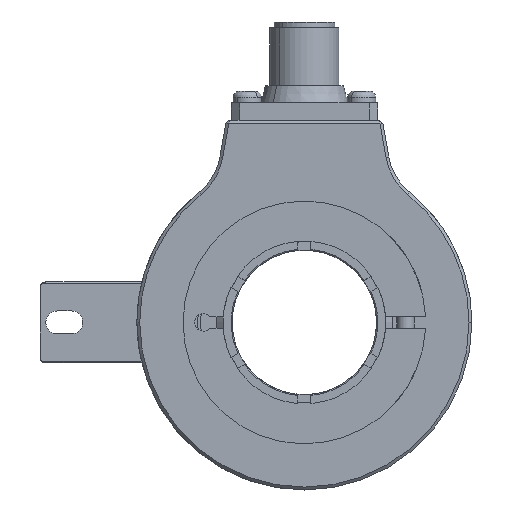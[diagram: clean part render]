
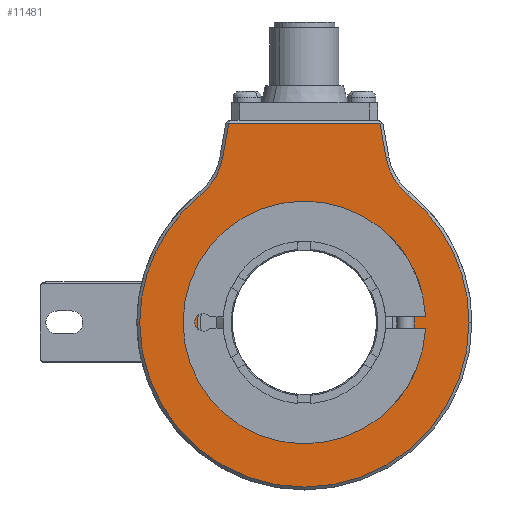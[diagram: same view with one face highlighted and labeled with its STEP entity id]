
A CAD part, left-side view. The second image highlights one B-rep face of the part: STEP entity #11481.
In plain terms, the highlighted planar face has unit normal (-1, 0, 0).
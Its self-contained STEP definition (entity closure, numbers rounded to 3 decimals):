
#164 = DIRECTION ( 'NONE',  ( 0., 0.174, -0.985 ) ) ;
#317 = CIRCLE ( 'NONE', #12585, 18.5 ) ;
#346 = CARTESIAN_POINT ( 'NONE',  ( -27., 17.883, 22.191 ) ) ;
#556 = DIRECTION ( 'NONE',  ( -1., 0., 0. ) ) ;
#740 = PLANE ( 'NONE',  #7985 ) ;
#1146 = CARTESIAN_POINT ( 'NONE',  ( -27., -13.08, 34.5 ) ) ;
#1326 = CARTESIAN_POINT ( 'NONE',  ( -27., 18.5, 0. ) ) ;
#1417 = DIRECTION ( 'NONE',  ( 1., 0., 0. ) ) ;
#1429 = CARTESIAN_POINT ( 'NONE',  ( -27., 0., 0. ) ) ;
#1501 = EDGE_CURVE ( 'NONE', #5836, #8774, #7565, .T. ) ;
#1685 = EDGE_CURVE ( 'NONE', #10364, #9672, #17182, .T. ) ;
#2010 = CARTESIAN_POINT ( 'NONE',  ( -27., 13.08, 34.5 ) ) ;
#2224 = ORIENTED_EDGE ( 'NONE', *, *, #1685, .T. ) ;
#2228 = VERTEX_POINT ( 'NONE', #15866 ) ;
#2250 = EDGE_LOOP ( 'NONE', ( #2224, #14128 ) ) ;
#2489 = VERTEX_POINT ( 'NONE', #18053 ) ;
#2624 = DIRECTION ( 'NONE',  ( 0., 1., 0. ) ) ;
#2635 = EDGE_CURVE ( 'NONE', #16672, #5604, #2981, .T. ) ;
#2689 = EDGE_CURVE ( 'NONE', #10497, #2228, #16241, .T. ) ;
#2802 = CARTESIAN_POINT ( 'NONE',  ( -27., -24.471, 30.367 ) ) ;
#2981 = CIRCLE ( 'NONE', #11168, 28.5 ) ;
#3103 = DIRECTION ( 'NONE',  ( -1., 0., 0. ) ) ;
#3360 = DIRECTION ( 'NONE',  ( 1., 0., 0. ) ) ;
#4176 = ORIENTED_EDGE ( 'NONE', *, *, #14098, .T. ) ;
#5082 = AXIS2_PLACEMENT_3D ( 'NONE', #12043, #9170, #11943 ) ;
#5149 = VECTOR ( 'NONE', #8439, 1000. ) ;
#5310 = ORIENTED_EDGE ( 'NONE', *, *, #1501, .T. ) ;
#5466 = DIRECTION ( 'NONE',  ( 0., -1., 0. ) ) ;
#5537 = CARTESIAN_POINT ( 'NONE',  ( -27., -18.5, 0. ) ) ;
#5576 = DIRECTION ( 'NONE',  ( 1., 0., 0. ) ) ;
#5604 = VERTEX_POINT ( 'NONE', #15654 ) ;
#5656 = AXIS2_PLACEMENT_3D ( 'NONE', #6613, #17109, #14127 ) ;
#5836 = VERTEX_POINT ( 'NONE', #2010 ) ;
#6007 = CIRCLE ( 'NONE', #8838, 28.5 ) ;
#6124 = ORIENTED_EDGE ( 'NONE', *, *, #2635, .T. ) ;
#6613 = CARTESIAN_POINT ( 'NONE',  ( -27., 0., 0. ) ) ;
#6821 = ORIENTED_EDGE ( 'NONE', *, *, #11242, .T. ) ;
#6882 = EDGE_CURVE ( 'NONE', #9672, #10364, #317, .T. ) ;
#6948 = FACE_OUTER_BOUND ( 'NONE', #8124, .T. ) ;
#6982 = EDGE_CURVE ( 'NONE', #2489, #10497, #11653, .T. ) ;
#7407 = AXIS2_PLACEMENT_3D ( 'NONE', #2802, #5576, #14555 ) ;
#7546 = EDGE_CURVE ( 'NONE', #5604, #2489, #6007, .T. ) ;
#7565 = LINE ( 'NONE', #13580, #14317 ) ;
#7985 = AXIS2_PLACEMENT_3D ( 'NONE', #15647, #17336, #5466 ) ;
#8124 = EDGE_LOOP ( 'NONE', ( #4176, #6821, #5310, #17024, #6124, #15914, #8345, #10689 ) ) ;
#8241 = DIRECTION ( 'NONE',  ( 0., -1., 0. ) ) ;
#8345 = ORIENTED_EDGE ( 'NONE', *, *, #6982, .T. ) ;
#8439 = DIRECTION ( 'NONE',  ( 0., 0.174, 0.985 ) ) ;
#8774 = VERTEX_POINT ( 'NONE', #16850 ) ;
#8838 = AXIS2_PLACEMENT_3D ( 'NONE', #16651, #3103, #9122 ) ;
#8986 = EDGE_CURVE ( 'NONE', #8774, #16672, #13607, .T. ) ;
#9122 = DIRECTION ( 'NONE',  ( 0., -1., 0. ) ) ;
#9170 = DIRECTION ( 'NONE',  ( 1., 0., 0. ) ) ;
#9374 = DIRECTION ( 'NONE',  ( 0., 1., 0. ) ) ;
#9579 = VERTEX_POINT ( 'NONE', #1146 ) ;
#9672 = VERTEX_POINT ( 'NONE', #5537 ) ;
#10364 = VERTEX_POINT ( 'NONE', #1326 ) ;
#10497 = VERTEX_POINT ( 'NONE', #13758 ) ;
#10524 = AXIS2_PLACEMENT_3D ( 'NONE', #1429, #3360, #9374 ) ;
#10689 = ORIENTED_EDGE ( 'NONE', *, *, #2689, .T. ) ;
#11168 = AXIS2_PLACEMENT_3D ( 'NONE', #15648, #556, #8241 ) ;
#11242 = EDGE_CURVE ( 'NONE', #9579, #5836, #11804, .T. ) ;
#11481 = ADVANCED_FACE ( 'NONE', ( #6948, #17531 ), #740, .T. ) ;
#11653 = CIRCLE ( 'NONE', #5656, 28.5 ) ;
#11804 = LINE ( 'NONE', #13286, #19359 ) ;
#11943 = DIRECTION ( 'NONE',  ( 0., -1., 0. ) ) ;
#11963 = DIRECTION ( 'NONE',  ( 0., 1., 0. ) ) ;
#12043 = CARTESIAN_POINT ( 'NONE',  ( -27., 24.471, 30.367 ) ) ;
#12585 = AXIS2_PLACEMENT_3D ( 'NONE', #18220, #1417, #11963 ) ;
#13286 = CARTESIAN_POINT ( 'NONE',  ( -27., 29., 34.5 ) ) ;
#13580 = CARTESIAN_POINT ( 'NONE',  ( -27., 19.46, -1.682 ) ) ;
#13607 = CIRCLE ( 'NONE', #5082, 10.5 ) ;
#13758 = CARTESIAN_POINT ( 'NONE',  ( -27., -17.883, 22.191 ) ) ;
#14098 = EDGE_CURVE ( 'NONE', #2228, #9579, #16047, .T. ) ;
#14127 = DIRECTION ( 'NONE',  ( 0., -1., 0. ) ) ;
#14128 = ORIENTED_EDGE ( 'NONE', *, *, #6882, .T. ) ;
#14317 = VECTOR ( 'NONE', #164, 1000. ) ;
#14555 = DIRECTION ( 'NONE',  ( 0., -1., 0. ) ) ;
#15647 = CARTESIAN_POINT ( 'NONE',  ( -27., 29., 0. ) ) ;
#15648 = CARTESIAN_POINT ( 'NONE',  ( -27., 0., 0. ) ) ;
#15654 = CARTESIAN_POINT ( 'NONE',  ( -27., 28.5, 0. ) ) ;
#15866 = CARTESIAN_POINT ( 'NONE',  ( -27., -14.131, 28.544 ) ) ;
#15914 = ORIENTED_EDGE ( 'NONE', *, *, #7546, .T. ) ;
#15945 = CARTESIAN_POINT ( 'NONE',  ( -27., -17.711, 8.236 ) ) ;
#16047 = LINE ( 'NONE', #15945, #5149 ) ;
#16241 = CIRCLE ( 'NONE', #7407, 10.5 ) ;
#16651 = CARTESIAN_POINT ( 'NONE',  ( -27., 0., 0. ) ) ;
#16672 = VERTEX_POINT ( 'NONE', #346 ) ;
#16850 = CARTESIAN_POINT ( 'NONE',  ( -27., 14.131, 28.544 ) ) ;
#17024 = ORIENTED_EDGE ( 'NONE', *, *, #8986, .T. ) ;
#17109 = DIRECTION ( 'NONE',  ( -1., 0., 0. ) ) ;
#17182 = CIRCLE ( 'NONE', #10524, 18.5 ) ;
#17336 = DIRECTION ( 'NONE',  ( -1., 0., 0. ) ) ;
#17531 = FACE_BOUND ( 'NONE', #2250, .T. ) ;
#18053 = CARTESIAN_POINT ( 'NONE',  ( -27., -28.5, 0. ) ) ;
#18220 = CARTESIAN_POINT ( 'NONE',  ( -27., 0., 0. ) ) ;
#19359 = VECTOR ( 'NONE', #2624, 1000. ) ;
